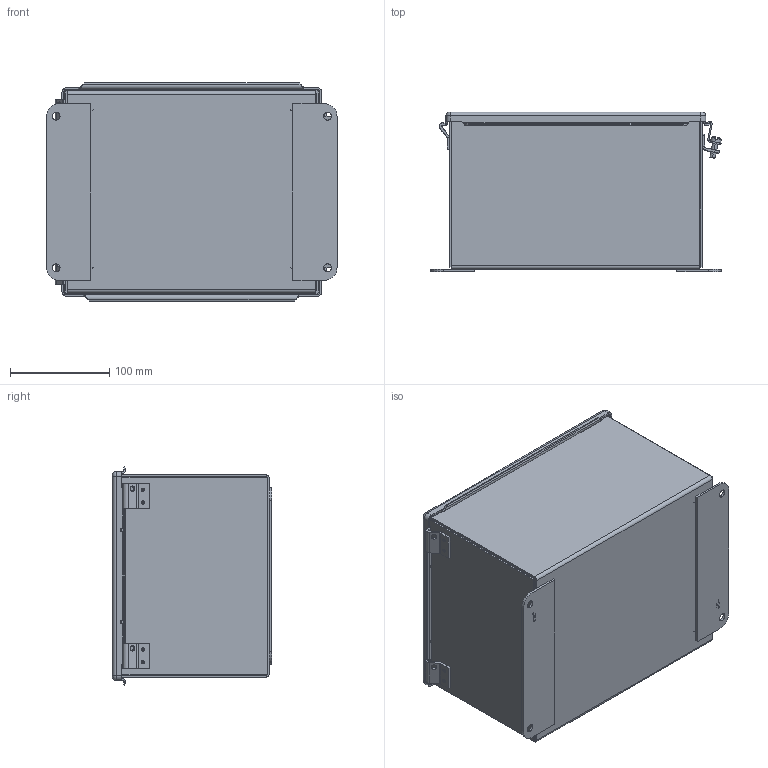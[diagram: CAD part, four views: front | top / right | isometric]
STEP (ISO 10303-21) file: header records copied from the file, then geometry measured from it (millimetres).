
FILE_DESCRIPTION (( 'STEP AP203' ), '1' );
FILE_NAME ('a10086lp.STEP', '2017-03-17T21:43:26', ( '' ), ( '' ), 'SwSTEP 2.0', 'SolidWorks 2014', '' );
FILE_SCHEMA (( 'CONFIG_CONTROL_DESIGN' ));
Length unit declared in the file: inch
Products named in the file (14): 89064562; 54104001; 54101001; 54102001; 54106001; 89099130; 89115448; 54103007_FHTS 0.25-14-slot-AB-1.813-N; 54206005_PER MODEL; a10086lp; 58346019; 89099128; 99404181; 54208003_54208003
Assembly tree (22 placements, depth 3):
  a10086lp
    89115448
      89099128
      54208003_54208003  x2
      54104001  x2
      54102001  x2
      54106001  x4
      89099130  x2
    54206005_PER MODEL
    89064562
      58346019
      99404181
    54101001  x2
    54103007_FHTS 0.25-14-slot-AB-1.813-N  x2
Bounding box: 292.48 x 160.4 x 219.45 mm (x, y, z)
Volume: 579827.2 mm3; surface area: 607661.4 mm2
Topology: 21 solids, 21 shells, 1285 faces, 3248 edges, 2080 vertices
Faces by surface type: plane 621, bspline 390, cylinder 164, sphere 48, torus 34, cone 28
Entity records: 31505 total; most frequent: CARTESIAN_POINT 13492, ORIENTED_EDGE 3652, DIRECTION 2821, EDGE_CURVE 1826, VERTEX_POINT 1150, LINE 1075, VECTOR 1075, AXIS2_PLACEMENT_3D 873
